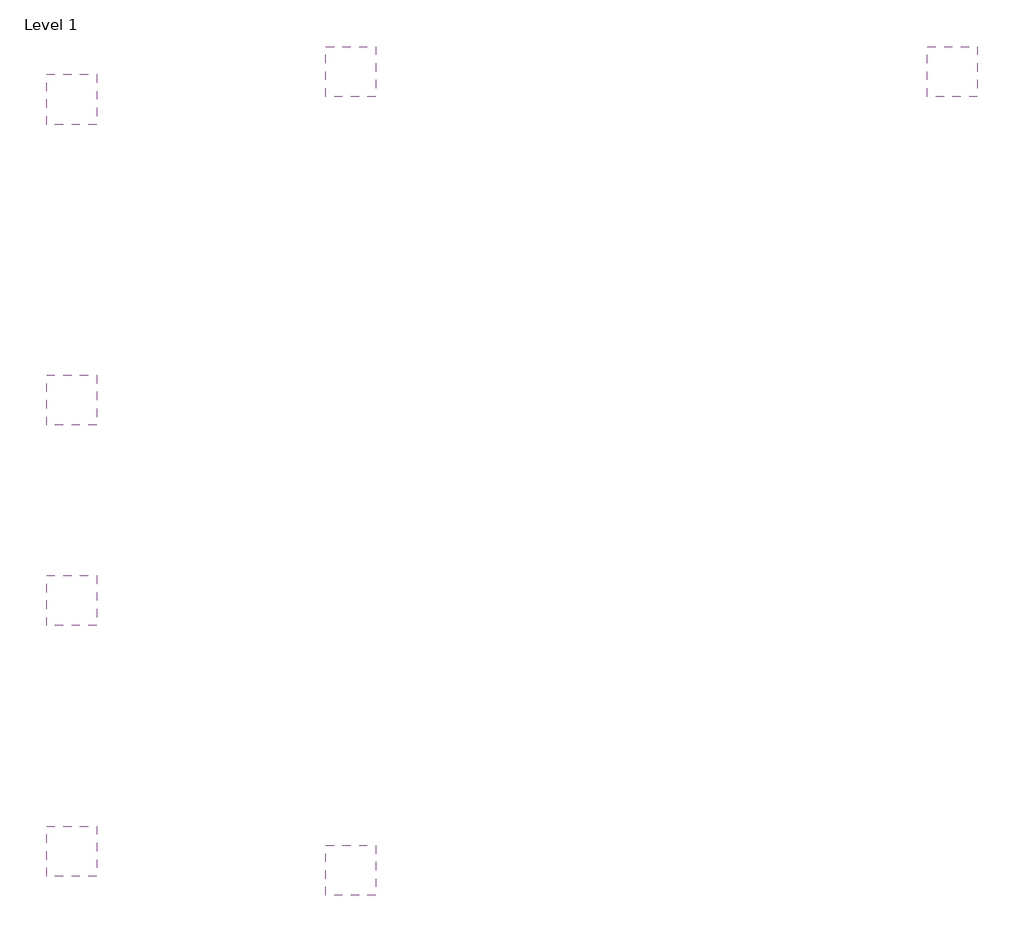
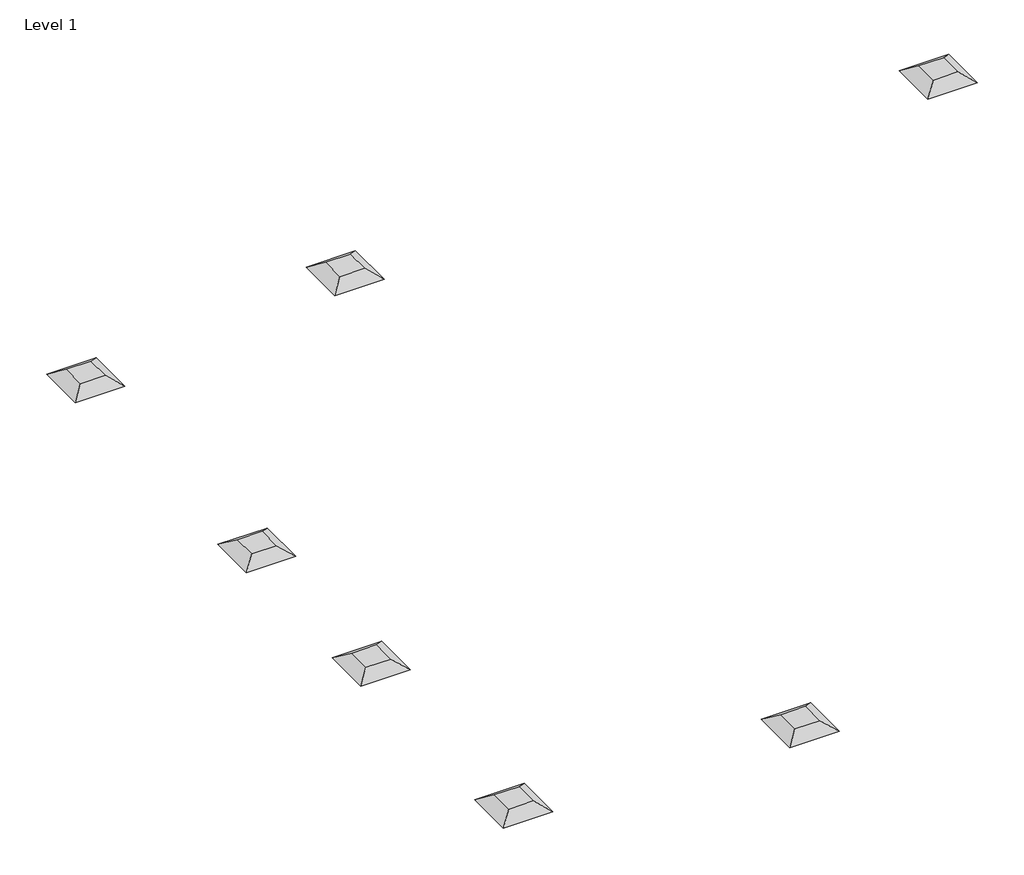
# One storey: 7 air terminals.
"""IFC4 building model written with IfcOpenShell, lengths in millimetres."""

from ifc_helpers import new_model, si_unit, origin, place, context, project, spatial, transform, mapped, element, save
from components import exhaust_diffuser_hosted_workplane_based_exhaust_diffuser_7695a80a

model = new_model("IFC4")

# Units and contexts
model_context = context("Model", 3, world=origin())
ifc_project = project(units=[si_unit("LENGTHUNIT", "METRE", prefix="MILLI")], contexts=[model_context])

# Site, building, storey
site = spatial("IfcSite", under=ifc_project)
building = spatial("IfcBuilding", under=site)
storey = spatial("IfcBuildingStorey", under=building, Name="Level 1", Elevation=0.0)

# Air terminals
placement = place(None, origin())
exhaust_diffuser_hosted_workplane_based_exhaust_diffuser_shape = exhaust_diffuser_hosted_workplane_based_exhaust_diffuser_7695a80a(model_context)
element("IfcAirTerminal", 1, ObjectType="Exhaust Diffuser - Hosted : Workplane-based Exhaust Diffuser", at=placement, inside=storey, context=model_context, shape_type="MappedRepresentation", body=[
    mapped(exhaust_diffuser_hosted_workplane_based_exhaust_diffuser_shape, transform((-14603.2525169, 10483.8984503, 2514.6), x_axis=(0.0, -1.0, 0.0), y_axis=(-1.0, 0.0, 0.0), z_axis=(0.0, 0.0, -1.0))),
])
element("IfcAirTerminal", 2, ObjectType="Return Diffuser - Hosted : Workplane-based Return Diffuser", at=placement, inside=storey, context=model_context, shape_type="MappedRepresentation", body=[
    mapped(exhaust_diffuser_hosted_workplane_based_exhaust_diffuser_shape, transform((-21916.7339359, 10483.8984503, 2514.6), x_axis=(0.0, -1.0, 0.0), y_axis=(-1.0, 0.0, 0.0), z_axis=(0.0, 0.0, -1.0))),
])
element("IfcAirTerminal", 3, ObjectType="Return Diffuser - Hosted : Workplane-based Return Diffuser", at=placement, inside=storey, context=model_context, shape_type="MappedRepresentation", body=[
    mapped(exhaust_diffuser_hosted_workplane_based_exhaust_diffuser_shape, transform((-21916.7339359, 769.7410539, 2514.6), x_axis=(0.0, -1.0, 0.0), y_axis=(-1.0, 0.0, 0.0), z_axis=(0.0, 0.0, -1.0))),
])
element("IfcAirTerminal", 4, ObjectType="Supply Diffuser - Hosted : Workplane-based Supply Diffuser", at=placement, inside=storey, context=model_context, shape_type="MappedRepresentation", body=[
    mapped(exhaust_diffuser_hosted_workplane_based_exhaust_diffuser_shape, transform((-25309.6859678, 10145.7709948, 2514.6), x_axis=(-1.0, 0.0, 0.0), y_axis=(0.0, 1.0, 0.0), z_axis=(0.0, 0.0, -1.0))),
])
element("IfcAirTerminal", 5, ObjectType="Supply Diffuser - Hosted : Workplane-based Supply Diffuser", at=placement, inside=storey, context=model_context, shape_type="MappedRepresentation", body=[
    mapped(exhaust_diffuser_hosted_workplane_based_exhaust_diffuser_shape, transform((-25309.6859678, 6488.1709948, 2514.6), x_axis=(-1.0, 0.0, 0.0), y_axis=(0.0, 1.0, 0.0), z_axis=(0.0, 0.0, -1.0))),
])
element("IfcAirTerminal", 6, ObjectType="Supply Diffuser - Hosted : Workplane-based Supply Diffuser", at=placement, inside=storey, context=model_context, shape_type="MappedRepresentation", body=[
    mapped(exhaust_diffuser_hosted_workplane_based_exhaust_diffuser_shape, transform((-25309.6859678, 4049.7709948, 2514.6), x_axis=(-1.0, 0.0, 0.0), y_axis=(0.0, 1.0, 0.0), z_axis=(0.0, 0.0, -1.0))),
])
element("IfcAirTerminal", 7, ObjectType="Supply Diffuser - Hosted : Workplane-based Supply Diffuser", at=placement, inside=storey, context=model_context, shape_type="MappedRepresentation", body=[
    mapped(exhaust_diffuser_hosted_workplane_based_exhaust_diffuser_shape, transform((-25309.6859678, 1001.7709948, 2514.6), x_axis=(-1.0, 0.0, 0.0), y_axis=(0.0, 1.0, 0.0), z_axis=(0.0, 0.0, -1.0))),
])

save(model, "model.ifc")
